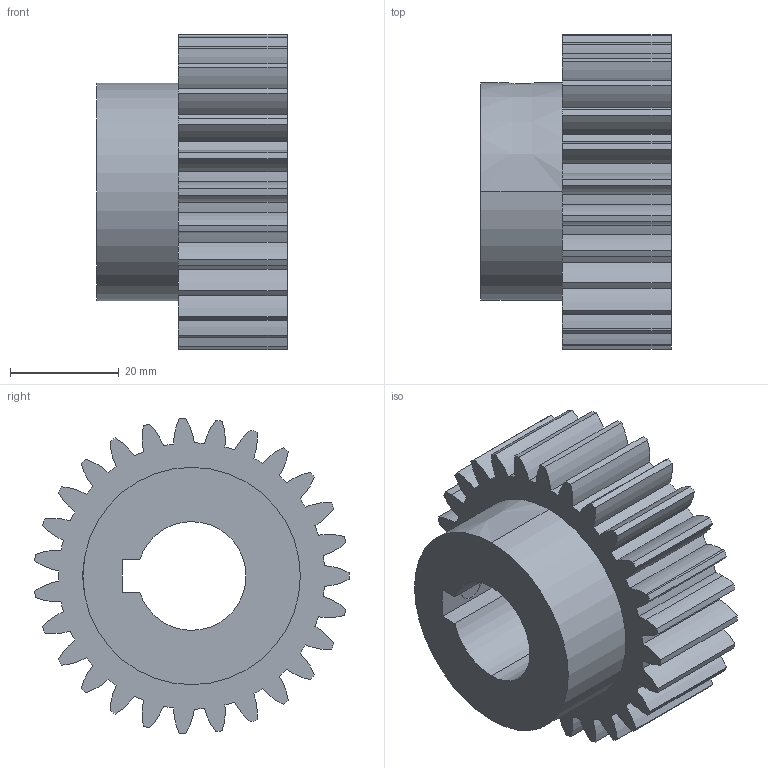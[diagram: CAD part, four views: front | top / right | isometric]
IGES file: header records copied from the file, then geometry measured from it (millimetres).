
Start section: 3D InterOp IGES (v. 2020 1.0.1), Spatial Corp. Copyright (c) 1999-2017.
Global section: file name: p20_w20_t27_bk.igs; native system: Spatial Corp.; preprocessor: 3D InterOp ACIS/IGES; author: TraceParts; organization: TraceParts S.A.; date: 20220624.033559; units: millimetre
Bounding box: 35 x 57.87 x 57.96 mm (x, y, z)
Surface area: 14957.1 mm2 (no closed solid volume)
Topology: 0 solids, 0 shells, 140 faces, 804 edges, 804 vertices
Faces by surface type: revolution 125, extrusion 15
